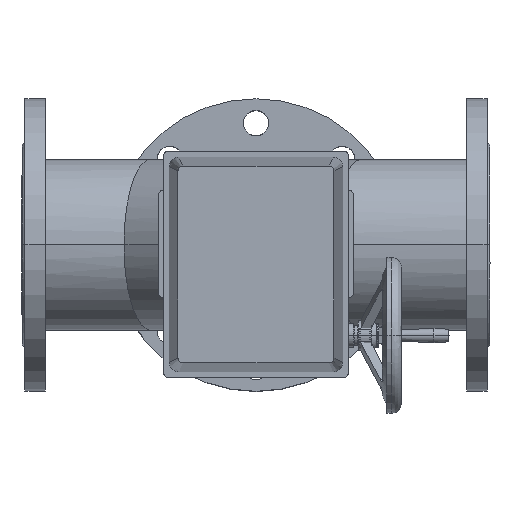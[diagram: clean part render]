
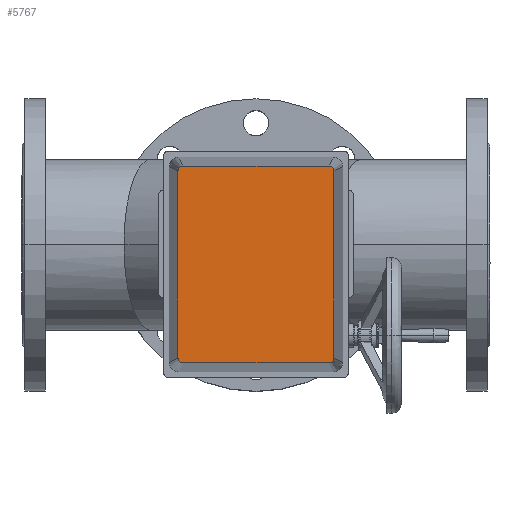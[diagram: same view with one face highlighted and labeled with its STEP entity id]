
A CAD part, top view. The second image highlights one B-rep face of the part: STEP entity #5767.
In plain terms, the highlighted planar face has unit normal (0, 0, 1).
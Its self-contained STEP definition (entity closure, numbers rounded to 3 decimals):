
#399=LINE('',#10071,#719);
#400=LINE('',#10075,#720);
#401=LINE('',#10079,#721);
#402=LINE('',#10083,#722);
#719=VECTOR('',#7761,304.8);
#720=VECTOR('',#7764,304.8);
#721=VECTOR('',#7767,304.8);
#722=VECTOR('',#7770,304.8);
#1331=FACE_OUTER_BOUND('',#1748,.T.);
#1748=EDGE_LOOP('',(#4513,#4514,#4515,#4516,#4517,#4518,#4519,#4520));
#2177=CIRCLE('',#6398,5.);
#2178=CIRCLE('',#6399,5.);
#2179=CIRCLE('',#6400,5.);
#2180=CIRCLE('',#6401,5.);
#2626=VERTEX_POINT('',#10069);
#2627=VERTEX_POINT('',#10070);
#2628=VERTEX_POINT('',#10072);
#2629=VERTEX_POINT('',#10074);
#2630=VERTEX_POINT('',#10076);
#2631=VERTEX_POINT('',#10078);
#2632=VERTEX_POINT('',#10080);
#2633=VERTEX_POINT('',#10082);
#3280=EDGE_CURVE('',#2626,#2627,#399,.T.);
#3281=EDGE_CURVE('',#2627,#2628,#2177,.T.);
#3282=EDGE_CURVE('',#2628,#2629,#400,.T.);
#3283=EDGE_CURVE('',#2629,#2630,#2178,.T.);
#3284=EDGE_CURVE('',#2630,#2631,#401,.T.);
#3285=EDGE_CURVE('',#2631,#2632,#2179,.T.);
#3286=EDGE_CURVE('',#2632,#2633,#402,.T.);
#3287=EDGE_CURVE('',#2633,#2626,#2180,.T.);
#4513=ORIENTED_EDGE('',*,*,#3280,.T.);
#4514=ORIENTED_EDGE('',*,*,#3281,.T.);
#4515=ORIENTED_EDGE('',*,*,#3282,.T.);
#4516=ORIENTED_EDGE('',*,*,#3283,.T.);
#4517=ORIENTED_EDGE('',*,*,#3284,.T.);
#4518=ORIENTED_EDGE('',*,*,#3285,.T.);
#4519=ORIENTED_EDGE('',*,*,#3286,.T.);
#4520=ORIENTED_EDGE('',*,*,#3287,.T.);
#5169=PLANE('',#6397);
#5767=ADVANCED_FACE('',(#1331),#5169,.T.);
#6397=AXIS2_PLACEMENT_3D('',#10068,#7759,#7760);
#6398=AXIS2_PLACEMENT_3D('',#10073,#7762,#7763);
#6399=AXIS2_PLACEMENT_3D('',#10077,#7765,#7766);
#6400=AXIS2_PLACEMENT_3D('',#10081,#7768,#7769);
#6401=AXIS2_PLACEMENT_3D('',#10084,#7771,#7772);
#7759=DIRECTION('center_axis',(0.,0.,1.));
#7760=DIRECTION('ref_axis',(0.,-1.,0.));
#7761=DIRECTION('',(0.,-1.,0.));
#7762=DIRECTION('center_axis',(0.,0.,1.));
#7763=DIRECTION('ref_axis',(1.,0.,0.));
#7764=DIRECTION('',(1.,0.,0.));
#7765=DIRECTION('center_axis',(0.,0.,1.));
#7766=DIRECTION('ref_axis',(1.,0.,0.));
#7767=DIRECTION('',(0.,1.,0.));
#7768=DIRECTION('center_axis',(0.,0.,1.));
#7769=DIRECTION('ref_axis',(1.,0.,0.));
#7770=DIRECTION('',(-1.,0.,0.));
#7771=DIRECTION('center_axis',(0.,0.,1.));
#7772=DIRECTION('ref_axis',(1.,0.,0.));
#10068=CARTESIAN_POINT('Origin',(-21.551,0.,
592.));
#10069=CARTESIAN_POINT('',(-122.531,75.,592.));
#10070=CARTESIAN_POINT('',(-122.531,-75.,592.));
#10071=CARTESIAN_POINT('',(-122.531,-75.,592.));
#10072=CARTESIAN_POINT('',(-117.531,-80.,592.));
#10073=CARTESIAN_POINT('Origin',(-117.531,-75.,592.));
#10074=CARTESIAN_POINT('',(74.43,-80.,592.));
#10075=CARTESIAN_POINT('',(74.43,-80.,592.));
#10076=CARTESIAN_POINT('',(79.43,-75.,592.));
#10077=CARTESIAN_POINT('Origin',(74.43,-75.,592.));
#10078=CARTESIAN_POINT('',(79.43,75.,592.));
#10079=CARTESIAN_POINT('',(79.43,75.,592.));
#10080=CARTESIAN_POINT('',(74.43,80.,592.));
#10081=CARTESIAN_POINT('Origin',(74.43,75.,592.));
#10082=CARTESIAN_POINT('',(-117.531,80.,592.));
#10083=CARTESIAN_POINT('',(-117.531,80.,592.));
#10084=CARTESIAN_POINT('Origin',(-117.531,75.,592.));
